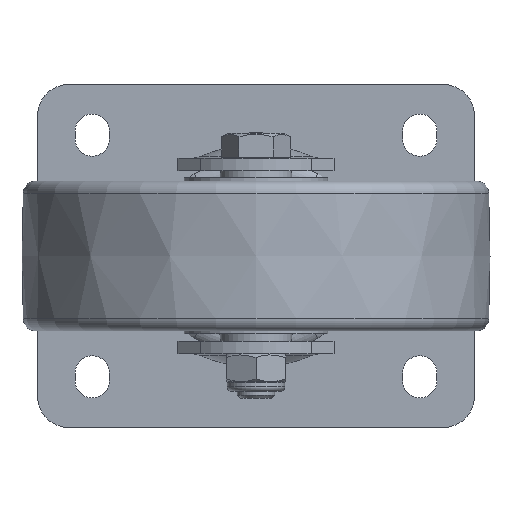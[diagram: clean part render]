
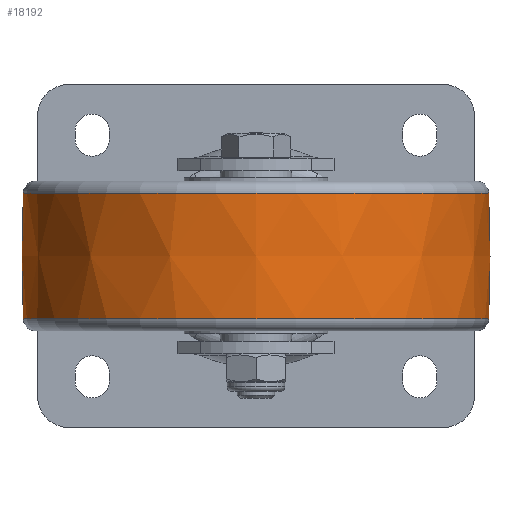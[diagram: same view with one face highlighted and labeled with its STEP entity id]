
A CAD part, front view. The second image highlights one B-rep face of the part: STEP entity #18192.
In plain terms, the highlighted free-form (B-spline) face has degree [2, 2] with [3, 9] control points.
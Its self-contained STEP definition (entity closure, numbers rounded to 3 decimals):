
#43=(
BOUNDED_SURFACE()
B_SPLINE_SURFACE(2,2,((#26072,#26073,#26074,#26075,#26076,#26077,#26078,
#26079,#26080),(#26081,#26082,#26083,#26084,#26085,#26086,#26087,#26088,
#26089),(#26090,#26091,#26092,#26093,#26094,#26095,#26096,#26097,#26098)),
 .UNSPECIFIED.,.F.,.T.,.F.)
B_SPLINE_SURFACE_WITH_KNOTS((3,3),(3,2,2,2,3),(-0.04,0.04),
(-3.142,-1.571,0.,1.571,3.142),
 .UNSPECIFIED.)
GEOMETRIC_REPRESENTATION_ITEM()
RATIONAL_B_SPLINE_SURFACE(((1.,0.707,1.,0.707,1.,
0.707,1.,0.707,1.),(0.999,0.707,
0.999,0.707,0.999,0.707,
0.999,0.707,0.999),(1.,0.707,
1.,0.707,1.,0.707,1.,0.707,1.)))
REPRESENTATION_ITEM('')
SURFACE()
);
#2378=FACE_OUTER_BOUND('',#3438,.T.);
#3438=EDGE_LOOP('',(#14106,#14107,#14108,#14109,#14110,#14111));
#7515=CIRCLE('',#19137,74.594);
#7516=CIRCLE('',#19138,74.594);
#7518=CIRCLE('',#19141,74.594);
#7519=CIRCLE('',#19142,500.5);
#7520=CIRCLE('',#19143,74.594);
#8292=VERTEX_POINT('',#26064);
#8293=VERTEX_POINT('',#26066);
#8295=VERTEX_POINT('',#26099);
#8296=VERTEX_POINT('',#26100);
#10431=EDGE_CURVE('',#8292,#8293,#7515,.T.);
#10432=EDGE_CURVE('',#8293,#8292,#7516,.T.);
#10434=EDGE_CURVE('',#8295,#8296,#7518,.T.);
#10435=EDGE_CURVE('',#8295,#8293,#7519,.T.);
#10436=EDGE_CURVE('',#8296,#8295,#7520,.T.);
#14106=ORIENTED_EDGE('',*,*,#10434,.F.);
#14107=ORIENTED_EDGE('',*,*,#10435,.T.);
#14108=ORIENTED_EDGE('',*,*,#10431,.F.);
#14109=ORIENTED_EDGE('',*,*,#10432,.F.);
#14110=ORIENTED_EDGE('',*,*,#10435,.F.);
#14111=ORIENTED_EDGE('',*,*,#10436,.F.);
#18192=ADVANCED_FACE('',(#2378),#43,.F.);
#19137=AXIS2_PLACEMENT_3D('',#26067,#20754,#20755);
#19138=AXIS2_PLACEMENT_3D('',#26068,#20756,#20757);
#19141=AXIS2_PLACEMENT_3D('',#26101,#20762,#20763);
#19142=AXIS2_PLACEMENT_3D('',#26102,#20764,#20765);
#19143=AXIS2_PLACEMENT_3D('',#26103,#20766,#20767);
#20754=DIRECTION('center_axis',(0.,0.,
-1.));
#20755=DIRECTION('ref_axis',(0.,-1.,0.));
#20756=DIRECTION('center_axis',(0.,0.,
-1.));
#20757=DIRECTION('ref_axis',(0.,-1.,0.));
#20762=DIRECTION('center_axis',(0.,0.,
1.));
#20763=DIRECTION('ref_axis',(0.,-1.,0.));
#20764=DIRECTION('center_axis',(-1.,0.,0.));
#20765=DIRECTION('ref_axis',(0.,1.,0.));
#20766=DIRECTION('center_axis',(0.,0.,
1.));
#20767=DIRECTION('ref_axis',(0.,-1.,0.));
#26064=CARTESIAN_POINT('',(0.,-189.594,-20.161));
#26066=CARTESIAN_POINT('',(0.,-40.406,-20.161));
#26067=CARTESIAN_POINT('Origin',(0.,-115.,
-20.161));
#26068=CARTESIAN_POINT('Origin',(0.,-115.,
-20.161));
#26072=CARTESIAN_POINT('Ctrl Pts',(0.,-40.406,
-20.161));
#26073=CARTESIAN_POINT('Ctrl Pts',(-74.594,-40.406,
-20.161));
#26074=CARTESIAN_POINT('Ctrl Pts',(-74.594,-115.,
-20.161));
#26075=CARTESIAN_POINT('Ctrl Pts',(-74.594,-189.594,
-20.161));
#26076=CARTESIAN_POINT('Ctrl Pts',(0.,-189.594,
-20.161));
#26077=CARTESIAN_POINT('Ctrl Pts',(74.594,-189.594,-20.161));
#26078=CARTESIAN_POINT('Ctrl Pts',(74.594,-115.,-20.161));
#26079=CARTESIAN_POINT('Ctrl Pts',(74.594,-40.406,-20.161));
#26080=CARTESIAN_POINT('Ctrl Pts',(0.,-40.406,
-20.161));
#26081=CARTESIAN_POINT('Ctrl Pts',(0.,-39.593,
0.));
#26082=CARTESIAN_POINT('Ctrl Pts',(-75.407,-39.593,
0.));
#26083=CARTESIAN_POINT('Ctrl Pts',(-75.407,-115.,0.));
#26084=CARTESIAN_POINT('Ctrl Pts',(-75.407,-190.407,
0.));
#26085=CARTESIAN_POINT('Ctrl Pts',(0.,-190.407,
0.));
#26086=CARTESIAN_POINT('Ctrl Pts',(75.407,-190.407,0.));
#26087=CARTESIAN_POINT('Ctrl Pts',(75.407,-115.,0.));
#26088=CARTESIAN_POINT('Ctrl Pts',(75.407,-39.593,0.));
#26089=CARTESIAN_POINT('Ctrl Pts',(0.,-39.593,
0.));
#26090=CARTESIAN_POINT('Ctrl Pts',(0.,-40.406,
20.161));
#26091=CARTESIAN_POINT('Ctrl Pts',(-74.594,-40.406,
20.161));
#26092=CARTESIAN_POINT('Ctrl Pts',(-74.594,-115.,
20.161));
#26093=CARTESIAN_POINT('Ctrl Pts',(-74.594,-189.594,
20.161));
#26094=CARTESIAN_POINT('Ctrl Pts',(0.,-189.594,
20.161));
#26095=CARTESIAN_POINT('Ctrl Pts',(74.594,-189.594,20.161));
#26096=CARTESIAN_POINT('Ctrl Pts',(74.594,-115.,20.161));
#26097=CARTESIAN_POINT('Ctrl Pts',(74.594,-40.406,20.161));
#26098=CARTESIAN_POINT('Ctrl Pts',(0.,-40.406,
20.161));
#26099=CARTESIAN_POINT('',(0.,-40.406,20.161));
#26100=CARTESIAN_POINT('',(0.,-189.594,20.161));
#26101=CARTESIAN_POINT('Origin',(0.,-115.,
20.161));
#26102=CARTESIAN_POINT('Origin',(0.,-540.5,0.));
#26103=CARTESIAN_POINT('Origin',(0.,-115.,
20.161));
